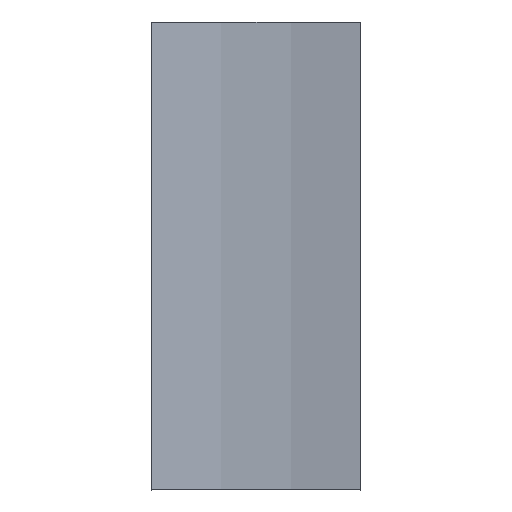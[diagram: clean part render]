
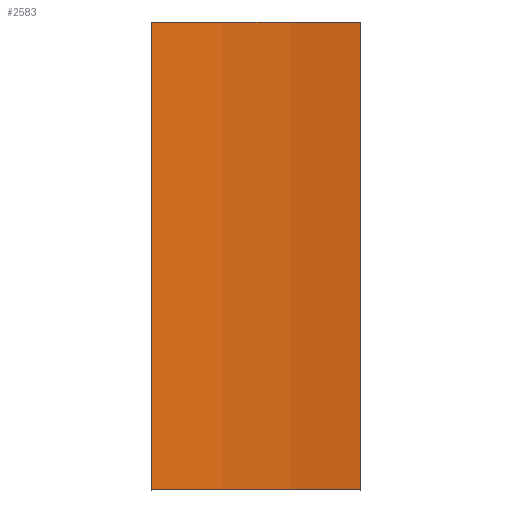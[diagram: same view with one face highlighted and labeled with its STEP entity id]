
A CAD part, top view. The second image highlights one B-rep face of the part: STEP entity #2583.
In plain terms, the highlighted cylindrical face has radius 75 mm (diameter 150 mm), a partial arc.
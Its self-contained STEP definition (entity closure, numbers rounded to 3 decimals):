
#336=CARTESIAN_POINT('',(0.,-36.,112.5));
#337=DIRECTION('',(0.,-1.,0.));
#338=DIRECTION('',(-0.215,0.,-0.977));
#339=AXIS2_PLACEMENT_3D('',#336,#337,#338);
#590=DIRECTION('',(0.,1.,0.));
#591=VECTOR('',#590,72.);
#592=CARTESIAN_POINT('',(16.088,-36.,39.246));
#593=LINE('',#592,#591);
#717=DIRECTION('',(0.,1.,0.));
#718=VECTOR('',#717,72.);
#719=CARTESIAN_POINT('',(-16.088,-36.,39.246));
#720=LINE('',#719,#718);
#748=CARTESIAN_POINT('',(0.,36.,112.5));
#749=DIRECTION('',(0.,-1.,0.));
#750=DIRECTION('',(-0.215,0.,-0.977));
#751=AXIS2_PLACEMENT_3D('',#748,#749,#750);
#2089=CARTESIAN_POINT('',(-16.088,-36.,39.246));
#2091=VERTEX_POINT('',#2089);
#2092=CARTESIAN_POINT('',(16.088,-36.,39.246));
#2093=VERTEX_POINT('',#2092);
#2097=CARTESIAN_POINT('',(-16.088,36.,39.246));
#2099=VERTEX_POINT('',#2097);
#2100=CARTESIAN_POINT('',(16.088,36.,39.246));
#2101=VERTEX_POINT('',#2100);
#2571=CARTESIAN_POINT('',(0.,-36.,112.5));
#2572=DIRECTION('',(0.,1.,0.));
#2573=DIRECTION('',(0.,0.,-1.));
#2574=AXIS2_PLACEMENT_3D('',#2571,#2572,#2573);
#2575=CYLINDRICAL_SURFACE('',#2574,75.);
#2576=ORIENTED_EDGE('',*,*,#2339,.F.);
#2577=ORIENTED_EDGE('',*,*,#2394,.T.);
#2579=ORIENTED_EDGE('',*,*,#2578,.T.);
#2580=ORIENTED_EDGE('',*,*,#2491,.F.);
#2581=EDGE_LOOP('',(#2576,#2577,#2579,#2580));
#2582=FACE_OUTER_BOUND('',#2581,.F.);
#340=CIRCLE('',#339,75.);
#752=CIRCLE('',#751,75.);
#2339=EDGE_CURVE('',#2091,#2093,#340,.T.);
#2394=EDGE_CURVE('',#2091,#2099,#720,.T.);
#2491=EDGE_CURVE('',#2093,#2101,#593,.T.);
#2578=EDGE_CURVE('',#2099,#2101,#752,.T.);
#2583=ADVANCED_FACE('',(#2582),#2575,.F.);
